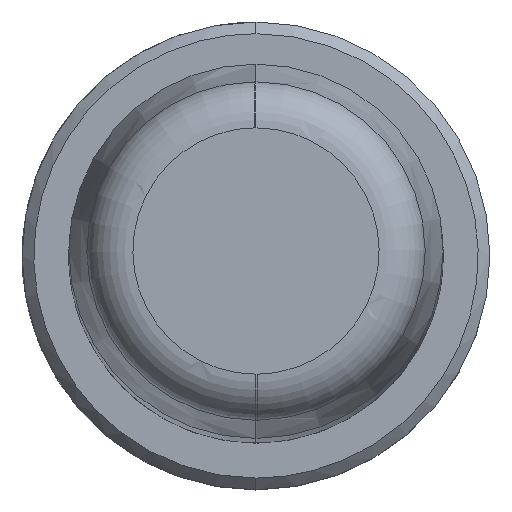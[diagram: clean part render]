
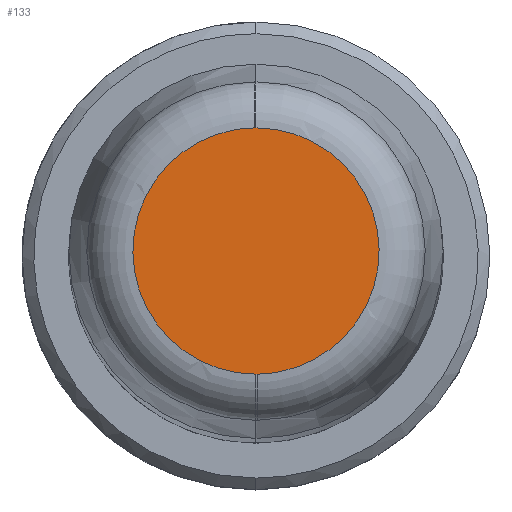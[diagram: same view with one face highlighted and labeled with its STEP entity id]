
A CAD part, top view. The second image highlights one B-rep face of the part: STEP entity #133.
In plain terms, the highlighted planar face has unit normal (0, 0, 1).
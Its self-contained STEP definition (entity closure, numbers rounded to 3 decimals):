
#52=CARTESIAN_POINT('Axis2P3D Location',(0.,0.,125.)) ;
#58=CARTESIAN_POINT('Control Point',(0.052,-5.264,125.)) ;
#59=CARTESIAN_POINT('Control Point',(0.042,-5.264,125.)) ;
#60=CARTESIAN_POINT('Control Point',(0.031,-5.264,125.)) ;
#61=CARTESIAN_POINT('Control Point',(0.021,-5.264,125.)) ;
#62=CARTESIAN_POINT('Control Point',(0.01,-5.264,125.)) ;
#63=CARTESIAN_POINT('Control Point',(0.,-5.264,125.)) ;
#64=CARTESIAN_POINT('Vertex',(0.052,-5.264,125.)) ;
#66=CARTESIAN_POINT('Vertex',(0.,-5.264,125.)) ;
#70=CARTESIAN_POINT('Control Point',(0.,5.264,125.)) ;
#71=CARTESIAN_POINT('Control Point',(0.562,5.264,125.)) ;
#72=CARTESIAN_POINT('Control Point',(1.124,5.189,125.)) ;
#73=CARTESIAN_POINT('Control Point',(1.673,5.039,125.)) ;
#74=CARTESIAN_POINT('Control Point',(2.717,4.596,125.)) ;
#75=CARTESIAN_POINT('Control Point',(3.608,3.895,125.)) ;
#76=CARTESIAN_POINT('Control Point',(4.004,3.487,125.)) ;
#77=CARTESIAN_POINT('Control Point',(4.677,2.574,125.)) ;
#78=CARTESIAN_POINT('Control Point',(5.088,1.517,125.)) ;
#79=CARTESIAN_POINT('Control Point',(5.221,0.964,125.)) ;
#80=CARTESIAN_POINT('Control Point',(5.336,-0.164,125.)) ;
#81=CARTESIAN_POINT('Control Point',(5.152,-1.283,125.)) ;
#82=CARTESIAN_POINT('Control Point',(4.985,-1.826,125.)) ;
#83=CARTESIAN_POINT('Control Point',(4.511,-2.856,125.)) ;
#84=CARTESIAN_POINT('Control Point',(3.783,-3.726,125.)) ;
#85=CARTESIAN_POINT('Control Point',(3.362,-4.109,125.)) ;
#86=CARTESIAN_POINT('Control Point',(2.492,-4.711,125.)) ;
#87=CARTESIAN_POINT('Control Point',(1.503,-5.08,125.)) ;
#88=CARTESIAN_POINT('Control Point',(1.025,-5.198,125.)) ;
#89=CARTESIAN_POINT('Control Point',(0.539,-5.259,125.)) ;
#90=CARTESIAN_POINT('Control Point',(0.052,-5.264,125.)) ;
#91=CARTESIAN_POINT('Vertex',(0.,5.264,125.)) ;
#95=CARTESIAN_POINT('Control Point',(-0.052,5.264,125.)) ;
#96=CARTESIAN_POINT('Control Point',(-0.042,5.264,125.)) ;
#97=CARTESIAN_POINT('Control Point',(-0.031,5.264,125.)) ;
#98=CARTESIAN_POINT('Control Point',(-0.021,5.264,125.)) ;
#99=CARTESIAN_POINT('Control Point',(-0.01,5.264,125.)) ;
#100=CARTESIAN_POINT('Control Point',(0.,5.264,125.)) ;
#101=CARTESIAN_POINT('Vertex',(-0.052,5.264,125.)) ;
#105=CARTESIAN_POINT('Control Point',(0.,-5.264,125.)) ;
#106=CARTESIAN_POINT('Control Point',(-0.562,-5.264,125.)) ;
#107=CARTESIAN_POINT('Control Point',(-1.124,-5.189,125.)) ;
#108=CARTESIAN_POINT('Control Point',(-1.673,-5.039,125.)) ;
#109=CARTESIAN_POINT('Control Point',(-2.717,-4.596,125.)) ;
#110=CARTESIAN_POINT('Control Point',(-3.608,-3.895,125.)) ;
#111=CARTESIAN_POINT('Control Point',(-4.004,-3.487,125.)) ;
#112=CARTESIAN_POINT('Control Point',(-4.677,-2.574,125.)) ;
#113=CARTESIAN_POINT('Control Point',(-5.088,-1.517,125.)) ;
#114=CARTESIAN_POINT('Control Point',(-5.221,-0.964,125.)) ;
#115=CARTESIAN_POINT('Control Point',(-5.336,0.164,125.)) ;
#116=CARTESIAN_POINT('Control Point',(-5.152,1.283,125.)) ;
#117=CARTESIAN_POINT('Control Point',(-4.985,1.826,125.)) ;
#118=CARTESIAN_POINT('Control Point',(-4.511,2.856,125.)) ;
#119=CARTESIAN_POINT('Control Point',(-3.783,3.726,125.)) ;
#120=CARTESIAN_POINT('Control Point',(-3.362,4.109,125.)) ;
#121=CARTESIAN_POINT('Control Point',(-2.492,4.711,125.)) ;
#122=CARTESIAN_POINT('Control Point',(-1.503,5.08,125.)) ;
#123=CARTESIAN_POINT('Control Point',(-1.025,5.198,125.)) ;
#124=CARTESIAN_POINT('Control Point',(-0.539,5.259,125.)) ;
#125=CARTESIAN_POINT('Control Point',(-0.052,5.264,125.)) ;
#53=DIRECTION('Axis2P3D Direction',(0.,0.,1.)) ;
#54=DIRECTION('Axis2P3D XDirection',(0.,-1.,0.)) ;
#55=AXIS2_PLACEMENT_3D('Plane Axis2P3D',#52,#53,#54) ;
#128=ORIENTED_EDGE('',*,*,#68,.F.) ;
#129=ORIENTED_EDGE('',*,*,#93,.F.) ;
#130=ORIENTED_EDGE('',*,*,#103,.F.) ;
#131=ORIENTED_EDGE('',*,*,#126,.F.) ;
#133=ADVANCED_FACE('MANIFOLD_SOLID_BREP #450',(#132),#56,.T.) ;
#57=B_SPLINE_CURVE_WITH_KNOTS('',5,(#58,#59,#60,#61,#62,#63),.UNSPECIFIED.,.F.,.U.,(6,6),(23.313,23.386),.UNSPECIFIED.) ;
#69=B_SPLINE_CURVE_WITH_KNOTS('',5,(#70,#71,#72,#73,#74,#75,#76,#77,#78,#79,#80,#81,#82,#83,#84,#85,#86,#87,#88,#89,#90),.UNSPECIFIED.,.F.,.U.,(6,3,3,3,3,3,6),(0.,3.974,7.948,11.921,15.895,19.869,23.313),.UNSPECIFIED.) ;
#94=B_SPLINE_CURVE_WITH_KNOTS('',5,(#95,#96,#97,#98,#99,#100),.UNSPECIFIED.,.F.,.U.,(6,6),(23.313,23.386),.UNSPECIFIED.) ;
#104=B_SPLINE_CURVE_WITH_KNOTS('',5,(#105,#106,#107,#108,#109,#110,#111,#112,#113,#114,#115,#116,#117,#118,#119,#120,#121,#122,#123,#124,#125),.UNSPECIFIED.,.F.,.U.,(6,3,3,3,3,3,6),(0.,3.974,7.948,11.921,15.895,19.869,23.313),.UNSPECIFIED.) ;
#68=EDGE_CURVE('',#65,#67,#57,.T.) ;
#93=EDGE_CURVE('',#92,#65,#69,.T.) ;
#103=EDGE_CURVE('',#102,#92,#94,.T.) ;
#126=EDGE_CURVE('',#67,#102,#104,.T.) ;
#127=EDGE_LOOP('',(#128,#129,#130,#131)) ;
#132=FACE_OUTER_BOUND('',#127,.T.) ;
#56=PLANE('Plane',#55) ;
#65=VERTEX_POINT('',#64) ;
#67=VERTEX_POINT('',#66) ;
#92=VERTEX_POINT('',#91) ;
#102=VERTEX_POINT('',#101) ;
